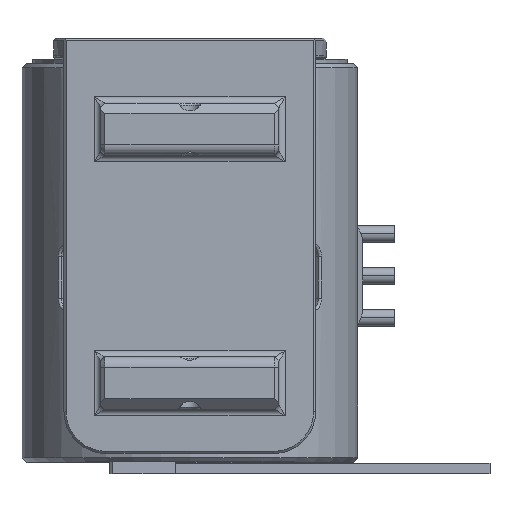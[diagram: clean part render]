
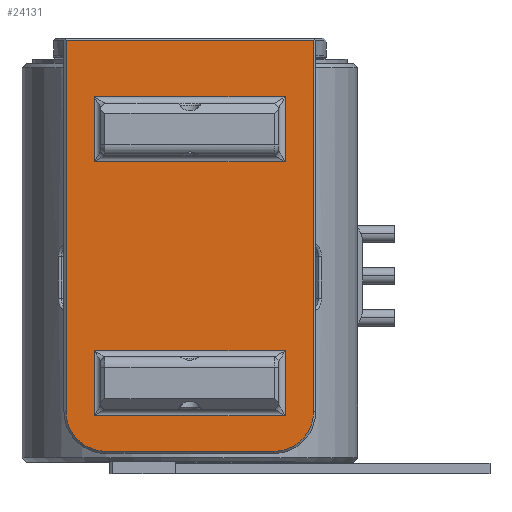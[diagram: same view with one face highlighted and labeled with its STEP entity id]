
A CAD part, top view. The second image highlights one B-rep face of the part: STEP entity #24131.
In plain terms, the highlighted planar face has unit normal (0, 0, 1) as drawn and (1, 0, 0) by its records, which use the part's own axes.
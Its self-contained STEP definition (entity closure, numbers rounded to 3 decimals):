
#21123=DIRECTION('',(0.,0.,-1.));
#21124=VECTOR('',#21123,17.7);
#21125=CARTESIAN_POINT('',(9.7,5.9,0.7));
#21126=LINE('',#21125,#21124);
#21127=CARTESIAN_POINT('',(9.7,4.,-17.));
#21128=DIRECTION('',(-1.,0.,0.));
#21129=DIRECTION('',(0.,1.,0.));
#21130=AXIS2_PLACEMENT_3D('',#21127,#21128,#21129);
#21132=DIRECTION('',(0.,-1.,0.));
#21133=VECTOR('',#21132,8.);
#21134=CARTESIAN_POINT('',(9.7,4.,
-18.9));
#21135=LINE('',#21134,#21133);
#21136=CARTESIAN_POINT('',(9.7,-4.,-17.));
#21137=DIRECTION('',(-1.,0.,0.));
#21138=DIRECTION('',(0.,0.,-1.));
#21139=AXIS2_PLACEMENT_3D('',#21136,#21137,#21138);
#21141=DIRECTION('',(0.,0.,1.));
#21142=VECTOR('',#21141,17.7);
#21143=CARTESIAN_POINT('',(9.7,-5.9,
-17.));
#21144=LINE('',#21143,#21142);
#21145=DIRECTION('',(0.,-1.,0.));
#21146=VECTOR('',#21145,11.8);
#21147=CARTESIAN_POINT('',(9.7,5.9,0.7));
#21148=LINE('',#21147,#21146);
#21149=DIRECTION('',(0.,0.,1.));
#21150=VECTOR('',#21149,3.1);
#21151=CARTESIAN_POINT('',(9.7,4.55,-17.2));
#21152=LINE('',#21151,#21150);
#21153=DIRECTION('',(0.,-1.,0.));
#21154=VECTOR('',#21153,9.1);
#21155=CARTESIAN_POINT('',(9.7,4.55,-14.1));
#21156=LINE('',#21155,#21154);
#21157=DIRECTION('',(0.,0.,-1.));
#21158=VECTOR('',#21157,3.1);
#21159=CARTESIAN_POINT('',(9.7,-4.55,-14.1));
#21160=LINE('',#21159,#21158);
#21161=DIRECTION('',(0.,1.,0.));
#21162=VECTOR('',#21161,9.1);
#21163=CARTESIAN_POINT('',(9.7,-4.55,-17.2));
#21164=LINE('',#21163,#21162);
#21165=DIRECTION('',(0.,0.,-1.));
#21166=VECTOR('',#21165,3.1);
#21167=CARTESIAN_POINT('',(9.7,-4.55,-2.));
#21168=LINE('',#21167,#21166);
#21169=DIRECTION('',(0.,1.,0.));
#21170=VECTOR('',#21169,9.1);
#21171=CARTESIAN_POINT('',(9.7,-4.55,-5.1));
#21172=LINE('',#21171,#21170);
#21173=DIRECTION('',(0.,0.,1.));
#21174=VECTOR('',#21173,3.1);
#21175=CARTESIAN_POINT('',(9.7,4.55,-5.1));
#21176=LINE('',#21175,#21174);
#21177=DIRECTION('',(0.,-1.,0.));
#21178=VECTOR('',#21177,9.1);
#21179=CARTESIAN_POINT('',(9.7,4.55,-2.));
#21180=LINE('',#21179,#21178);
#21227=CARTESIAN_POINT('',(9.7,4.55,-14.1));
#21255=CARTESIAN_POINT('',(9.7,4.55,-17.2));
#21271=CARTESIAN_POINT('',(9.7,-4.55,-17.2));
#21299=CARTESIAN_POINT('',(9.7,-4.55,-14.1));
#22018=CARTESIAN_POINT('',(9.7,4.55,-2.));
#22034=CARTESIAN_POINT('',(9.7,4.55,-5.1));
#22062=CARTESIAN_POINT('',(9.7,-4.55,-5.1));
#22102=CARTESIAN_POINT('',(9.7,-4.55,-2.));
#23161=CARTESIAN_POINT('',(9.7,5.9,0.7));
#23162=CARTESIAN_POINT('',(9.7,5.9,
-17.));
#23163=VERTEX_POINT('',#23161);
#23164=VERTEX_POINT('',#23162);
#23167=CARTESIAN_POINT('',(9.7,4.,-18.9));
#23168=VERTEX_POINT('',#23167);
#23171=CARTESIAN_POINT('',(9.7,-4.,
-18.9));
#23172=VERTEX_POINT('',#23171);
#23175=CARTESIAN_POINT('',(9.7,-5.9,-17.));
#23176=VERTEX_POINT('',#23175);
#23177=CARTESIAN_POINT('',(9.7,-5.9,0.7));
#23178=VERTEX_POINT('',#23177);
#23240=VERTEX_POINT('',#22034);
#23247=VERTEX_POINT('',#22018);
#23254=VERTEX_POINT('',#22062);
#23269=VERTEX_POINT('',#22102);
#23276=VERTEX_POINT('',#21271);
#23283=VERTEX_POINT('',#21299);
#23290=VERTEX_POINT('',#21255);
#23305=VERTEX_POINT('',#21227);
#24097=CARTESIAN_POINT('',(9.7,0.,0.));
#24098=DIRECTION('',(1.,0.,0.));
#24099=DIRECTION('',(0.,-1.,0.));
#24100=AXIS2_PLACEMENT_3D('',#24097,#24098,#24099);
#24101=PLANE('',#24100);
#24102=ORIENTED_EDGE('',*,*,#23867,.T.);
#24103=ORIENTED_EDGE('',*,*,#23883,.T.);
#24105=ORIENTED_EDGE('',*,*,#24104,.T.);
#24106=ORIENTED_EDGE('',*,*,#24076,.T.);
#24107=ORIENTED_EDGE('',*,*,#24088,.T.);
#24108=ORIENTED_EDGE('',*,*,#23851,.F.);
#24109=EDGE_LOOP('',(#24102,#24103,#24105,#24106,#24107,#24108));
#24110=FACE_OUTER_BOUND('',#24109,.F.);
#24112=ORIENTED_EDGE('',*,*,#24111,.T.);
#24114=ORIENTED_EDGE('',*,*,#24113,.T.);
#24116=ORIENTED_EDGE('',*,*,#24115,.T.);
#24118=ORIENTED_EDGE('',*,*,#24117,.T.);
#24119=EDGE_LOOP('',(#24112,#24114,#24116,#24118));
#24120=FACE_BOUND('',#24119,.F.);
#24122=ORIENTED_EDGE('',*,*,#24121,.T.);
#24124=ORIENTED_EDGE('',*,*,#24123,.T.);
#24126=ORIENTED_EDGE('',*,*,#24125,.T.);
#24128=ORIENTED_EDGE('',*,*,#24127,.T.);
#24129=EDGE_LOOP('',(#24122,#24124,#24126,#24128));
#24130=FACE_BOUND('',#24129,.F.);
#24131=ADVANCED_FACE('',(#24110,#24120,#24130),#24101,.T.);
#21131=CIRCLE('',#21130,1.9);
#21140=CIRCLE('',#21139,1.9);
#23851=EDGE_CURVE('',#23163,#23178,#21148,.T.);
#23867=EDGE_CURVE('',#23163,#23164,#21126,.T.);
#23883=EDGE_CURVE('',#23164,#23168,#21131,.T.);
#24076=EDGE_CURVE('',#23172,#23176,#21140,.T.);
#24088=EDGE_CURVE('',#23176,#23178,#21144,.T.);
#24104=EDGE_CURVE('',#23168,#23172,#21135,.T.);
#24111=EDGE_CURVE('',#23290,#23305,#21152,.T.);
#24113=EDGE_CURVE('',#23305,#23283,#21156,.T.);
#24115=EDGE_CURVE('',#23283,#23276,#21160,.T.);
#24117=EDGE_CURVE('',#23276,#23290,#21164,.T.);
#24121=EDGE_CURVE('',#23269,#23254,#21168,.T.);
#24123=EDGE_CURVE('',#23254,#23240,#21172,.T.);
#24125=EDGE_CURVE('',#23240,#23247,#21176,.T.);
#24127=EDGE_CURVE('',#23247,#23269,#21180,.T.);
